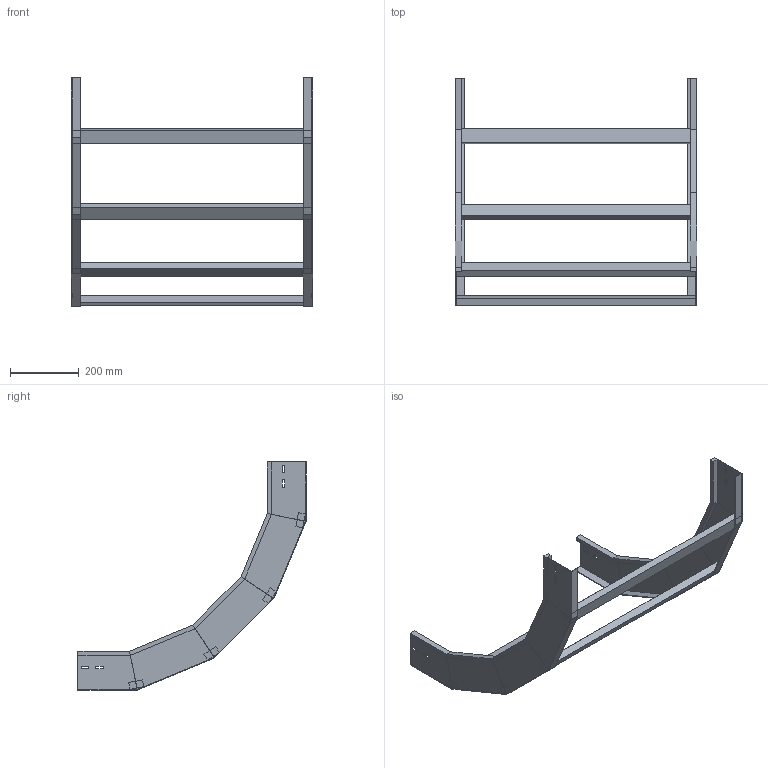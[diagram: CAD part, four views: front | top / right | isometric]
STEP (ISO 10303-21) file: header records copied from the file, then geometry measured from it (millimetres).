
FILE_DESCRIPTION (( 'STEP AP214' ), '1' );
FILE_NAME ('B2X30B5J700XX.step', '2025-03-20T10:23:33', ( '' ), ( '' ), 'SwSTEP 2.0', 'SolidWorks 2023', '' );
FILE_SCHEMA (( 'AUTOMOTIVE_DESIGN' ));
Length unit declared in the file: millimetre
Products named in the file (3): B2X30B5J700XX; LONGH.SALITA_90°_H112.5_R500; TRAVERSINO_700
Assembly tree (6 placements, depth 2):
  B2X30B5J700XX
    LONGH.SALITA_90°_H112.5_R500  x2
    TRAVERSINO_700  x4
Bounding box: 700 x 661.62 x 661.62 mm (x, y, z)
Volume: 3149708.4 mm3; surface area: 959391.7 mm2
Topology: 6 solids, 6 shells, 140 faces, 320 edges, 192 vertices
Faces by surface type: plane 140
Entity records: 1872 total; most frequent: CARTESIAN_POINT 309, ORIENTED_EDGE 296, DIRECTION 294, LINE 148, EDGE_CURVE 148, VECTOR 148, VERTEX_POINT 88, AXIS2_PLACEMENT_3D 73
